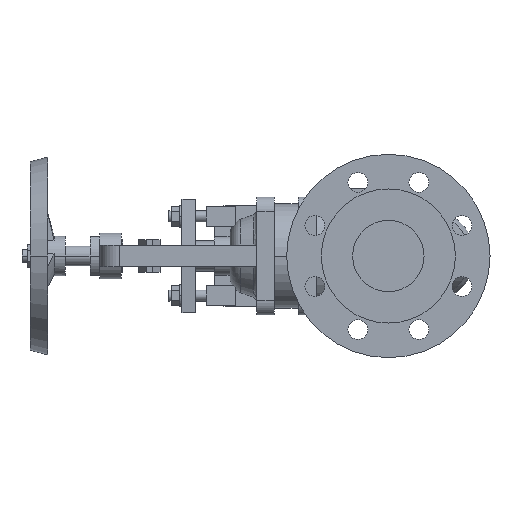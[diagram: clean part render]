
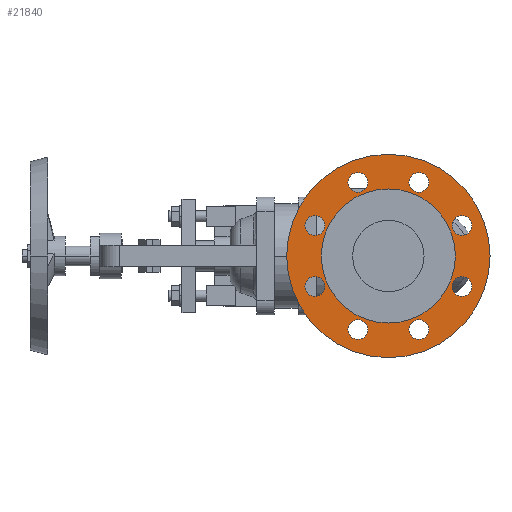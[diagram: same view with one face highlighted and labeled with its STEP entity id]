
A CAD part, left-side view. The second image highlights one B-rep face of the part: STEP entity #21840.
In plain terms, the highlighted planar face has unit normal (-1, 0, 0).
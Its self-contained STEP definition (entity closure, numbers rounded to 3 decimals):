
#11040=CARTESIAN_POINT('',(3.,0.,92.5));
#11050=VERTEX_POINT('',#11040);
#11210=CARTESIAN_POINT('',(3.,0.,-92.5));
#11220=VERTEX_POINT('',#11210);
#11250=CARTESIAN_POINT('',(3.,0.,0.));
#11260=DIRECTION('',(1.,0.,0.));
#11270=DIRECTION('',(0.,0.,-1.));
#11280=AXIS2_PLACEMENT_3D('',#11250,#11260,#11270);
#11290=CIRCLE('',#11280,92.5);
#11300=EDGE_CURVE('',#11050,#11220,#11290,.T.);
#11530=CARTESIAN_POINT('',(3.,27.745,-57.981));
#11540=VERTEX_POINT('',#11530);
#11570=CARTESIAN_POINT('',(3.,27.745,-66.981));
#11580=DIRECTION('',(-1.,0.,0.));
#11590=DIRECTION('',(0.,0.,-1.));
#11600=AXIS2_PLACEMENT_3D('',#11570,#11580,#11590);
#11610=CIRCLE('',#11600,9.);
#11620=CARTESIAN_POINT('',(3.,27.745,-75.981));
#11630=VERTEX_POINT('',#11620);
#11640=EDGE_CURVE('',#11630,#11540,#11610,.T.);
#12020=CARTESIAN_POINT('',(3.,-27.745,-75.981));
#12030=VERTEX_POINT('',#12020);
#12190=CARTESIAN_POINT('',(3.,-27.745,-57.981));
#12200=VERTEX_POINT('',#12190);
#12230=CARTESIAN_POINT('',(3.,-27.745,-66.981));
#12240=DIRECTION('',(-1.,0.,0.));
#12250=DIRECTION('',(0.,0.,-1.));
#12260=AXIS2_PLACEMENT_3D('',#12230,#12240,#12250);
#12270=CIRCLE('',#12260,9.);
#12280=EDGE_CURVE('',#12030,#12200,#12270,.T.);
#12510=CARTESIAN_POINT('',(3.,66.981,-18.745));
#12520=VERTEX_POINT('',#12510);
#12550=CARTESIAN_POINT('',(3.,66.981,-27.745));
#12560=DIRECTION('',(-1.,0.,0.));
#12570=DIRECTION('',(0.,0.,-1.));
#12580=AXIS2_PLACEMENT_3D('',#12550,#12560,#12570);
#12590=CIRCLE('',#12580,9.);
#12600=CARTESIAN_POINT('',(3.,66.981,-36.745));
#12610=VERTEX_POINT('',#12600);
#12620=EDGE_CURVE('',#12610,#12520,#12590,.T.);
#13000=CARTESIAN_POINT('',(3.,-66.981,-18.745));
#13010=VERTEX_POINT('',#13000);
#13170=CARTESIAN_POINT('',(3.,-66.981,-36.745));
#13180=VERTEX_POINT('',#13170);
#13210=CARTESIAN_POINT('',(3.,-66.981,-27.745));
#13220=DIRECTION('',(-1.,0.,0.));
#13230=DIRECTION('',(0.,0.,-1.));
#13240=AXIS2_PLACEMENT_3D('',#13210,#13220,#13230);
#13250=CIRCLE('',#13240,9.);
#13260=EDGE_CURVE('',#13010,#13180,#13250,.T.);
#13490=CARTESIAN_POINT('',(3.,66.981,36.745));
#13500=VERTEX_POINT('',#13490);
#13660=CARTESIAN_POINT('',(3.,66.981,18.745));
#13670=VERTEX_POINT('',#13660);
#13700=CARTESIAN_POINT('',(3.,66.981,27.745));
#13710=DIRECTION('',(-1.,0.,0.));
#13720=DIRECTION('',(0.,0.,-1.));
#13730=AXIS2_PLACEMENT_3D('',#13700,#13710,#13720);
#13740=CIRCLE('',#13730,9.);
#13750=EDGE_CURVE('',#13500,#13670,#13740,.T.);
#13980=CARTESIAN_POINT('',(3.,-66.981,18.745));
#13990=VERTEX_POINT('',#13980);
#14150=CARTESIAN_POINT('',(3.,-66.981,36.745));
#14160=VERTEX_POINT('',#14150);
#14190=CARTESIAN_POINT('',(3.,-66.981,27.745));
#14200=DIRECTION('',(-1.,0.,0.));
#14210=DIRECTION('',(0.,0.,-1.));
#14220=AXIS2_PLACEMENT_3D('',#14190,#14200,#14210);
#14230=CIRCLE('',#14220,9.);
#14240=EDGE_CURVE('',#13990,#14160,#14230,.T.);
#14470=CARTESIAN_POINT('',(3.,27.745,57.981));
#14480=VERTEX_POINT('',#14470);
#14510=CARTESIAN_POINT('',(3.,27.745,66.981));
#14520=DIRECTION('',(-1.,0.,0.));
#14530=DIRECTION('',(0.,0.,-1.));
#14540=AXIS2_PLACEMENT_3D('',#14510,#14520,#14530);
#14550=CIRCLE('',#14540,9.);
#14560=CARTESIAN_POINT('',(3.,27.745,75.981));
#14570=VERTEX_POINT('',#14560);
#14580=EDGE_CURVE('',#14570,#14480,#14550,.T.);
#14960=CARTESIAN_POINT('',(3.,-27.745,57.981));
#14970=VERTEX_POINT('',#14960);
#15130=CARTESIAN_POINT('',(3.,-27.745,75.981));
#15140=VERTEX_POINT('',#15130);
#15170=CARTESIAN_POINT('',(3.,-27.745,66.981));
#15180=DIRECTION('',(-1.,0.,0.));
#15190=DIRECTION('',(0.,0.,-1.));
#15200=AXIS2_PLACEMENT_3D('',#15170,#15180,#15190);
#15210=CIRCLE('',#15200,9.);
#15220=EDGE_CURVE('',#14970,#15140,#15210,.T.);
#15450=CARTESIAN_POINT('',(3.,61.,0.));
#15460=VERTEX_POINT('',#15450);
#15620=CARTESIAN_POINT('',(3.,-61.,0.));
#15630=VERTEX_POINT('',#15620);
#15660=CARTESIAN_POINT('',(3.,0.,0.));
#15670=DIRECTION('',(-1.,0.,0.));
#15680=DIRECTION('',(0.,1.,0.));
#15690=AXIS2_PLACEMENT_3D('',#15660,#15670,#15680);
#15700=CIRCLE('',#15690,61.);
#15710=EDGE_CURVE('',#15460,#15630,#15700,.T.);
#21290=CARTESIAN_POINT('',(3.,76.75,0.));
#21300=DIRECTION('',(1.,0.,0.));
#21310=DIRECTION('',(0.,-1.,0.));
#21320=AXIS2_PLACEMENT_3D('',#21290,#21300,#21310);
#21330=PLANE('',#21320);
#21340=EDGE_CURVE('',#15630,#15460,#15700,.T.);
#21350=ORIENTED_EDGE('',*,*,#21340,.F.);
#21360=ORIENTED_EDGE('',*,*,#15710,.F.);
#21370=EDGE_LOOP('',(#21360,#21350));
#21380=FACE_BOUND('',#21370,.T.);
#21390=EDGE_CURVE('',#11220,#11050,#11290,.T.);
#21400=ORIENTED_EDGE('',*,*,#21390,.F.);
#21410=ORIENTED_EDGE('',*,*,#11300,.F.);
#21420=EDGE_LOOP('',(#21410,#21400));
#21430=FACE_OUTER_BOUND('',#21420,.T.);
#21440=ORIENTED_EDGE('',*,*,#11640,.F.);
#21450=EDGE_CURVE('',#11540,#11630,#11610,.T.);
#21460=ORIENTED_EDGE('',*,*,#21450,.F.);
#21470=EDGE_LOOP('',(#21460,#21440));
#21480=FACE_BOUND('',#21470,.T.);
#21490=EDGE_CURVE('',#12200,#12030,#12270,.T.);
#21500=ORIENTED_EDGE('',*,*,#21490,.F.);
#21510=ORIENTED_EDGE('',*,*,#12280,.F.);
#21520=EDGE_LOOP('',(#21510,#21500));
#21530=FACE_BOUND('',#21520,.T.);
#21540=ORIENTED_EDGE('',*,*,#12620,.F.);
#21550=EDGE_CURVE('',#12520,#12610,#12590,.T.);
#21560=ORIENTED_EDGE('',*,*,#21550,.F.);
#21570=EDGE_LOOP('',(#21560,#21540));
#21580=FACE_BOUND('',#21570,.T.);
#21590=EDGE_CURVE('',#13180,#13010,#13250,.T.);
#21600=ORIENTED_EDGE('',*,*,#21590,.F.);
#21610=ORIENTED_EDGE('',*,*,#13260,.F.);
#21620=EDGE_LOOP('',(#21610,#21600));
#21630=FACE_BOUND('',#21620,.T.);
#21640=EDGE_CURVE('',#13670,#13500,#13740,.T.);
#21650=ORIENTED_EDGE('',*,*,#21640,.F.);
#21660=ORIENTED_EDGE('',*,*,#13750,.F.);
#21670=EDGE_LOOP('',(#21660,#21650));
#21680=FACE_BOUND('',#21670,.T.);
#21690=EDGE_CURVE('',#14160,#13990,#14230,.T.);
#21700=ORIENTED_EDGE('',*,*,#21690,.F.);
#21710=ORIENTED_EDGE('',*,*,#14240,.F.);
#21720=EDGE_LOOP('',(#21710,#21700));
#21730=FACE_BOUND('',#21720,.T.);
#21740=ORIENTED_EDGE('',*,*,#14580,.F.);
#21750=EDGE_CURVE('',#14480,#14570,#14550,.T.);
#21760=ORIENTED_EDGE('',*,*,#21750,.F.);
#21770=EDGE_LOOP('',(#21760,#21740));
#21780=FACE_BOUND('',#21770,.T.);
#21790=EDGE_CURVE('',#15140,#14970,#15210,.T.);
#21800=ORIENTED_EDGE('',*,*,#21790,.F.);
#21810=ORIENTED_EDGE('',*,*,#15220,.F.);
#21820=EDGE_LOOP('',(#21810,#21800));
#21830=FACE_BOUND('',#21820,.T.);
#21840=ADVANCED_FACE('',(#21380,#21430,#21480,#21530,#21580,#21630,
#21680,#21730,#21780,#21830),#21330,.F.);
